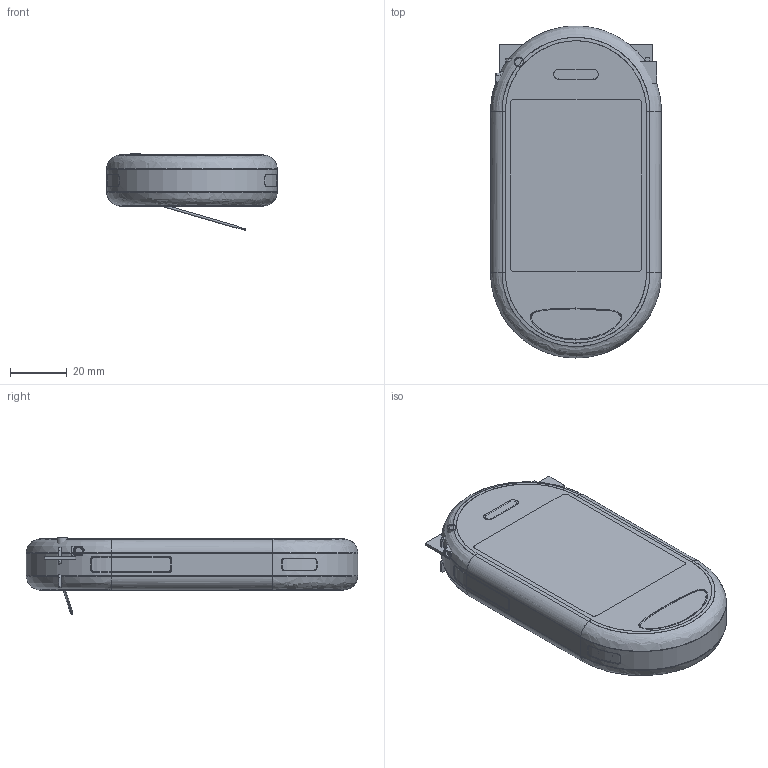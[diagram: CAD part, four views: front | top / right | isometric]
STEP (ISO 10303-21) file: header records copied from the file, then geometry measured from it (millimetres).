
FILE_DESCRIPTION((''),'2;1');
FILE_NAME('ID-GTC-GPS-PRELIMINARY_ASM','2008-06-30T',('GRA'),(''),'PRO/ENGINEER BY PARAMETRIC TECHNOLOGY CORPORATION, 2006170','PRO/ENGINEER BY PARAMETRIC TECHNOLOGY CORPORATION, 2006170','');
FILE_SCHEMA(('CONFIG_CONTROL_DESIGN'));
Length unit declared in the file: millimetre
Products named in the file (12): ID-GTC-FRONT-PRE_PRT; ID-GTC-REAR-PRE_PRT; ID-GTC-MIDDLE-PRE_PRT; ID-GTC-STACKING_PRT; ID-GTC-LENS-PRE_PRT; ID-GTC-SPEAKER-DECO_PRT; ID-GTC-SD-COV_PRT; ID-GTC-USB-COV_PRT; BLACK_PRT; ID-GTC-FRONT-RING_PRT; ID-GTC-REAR-RING_PRT; ID-GTC-GPS-PRELIMINARY_ASM
Assembly tree (11 placements, depth 2):
  ID-GTC-GPS-PRELIMINARY_ASM
    ID-GTC-FRONT-PRE_PRT
    ID-GTC-REAR-PRE_PRT
    ID-GTC-MIDDLE-PRE_PRT
    ID-GTC-STACKING_PRT
    ID-GTC-LENS-PRE_PRT
    ID-GTC-SPEAKER-DECO_PRT
    ID-GTC-SD-COV_PRT
    ID-GTC-USB-COV_PRT
    BLACK_PRT
    ID-GTC-FRONT-RING_PRT
    ID-GTC-REAR-RING_PRT
Bounding box: 60 x 116.7 x 26.81 mm (x, y, z)
Volume: 106631.7 mm3; surface area: 149756.2 mm2
Topology: 48 solids, 75 shells, 2221 faces, 5876 edges, 3803 vertices
Faces by surface type: plane 1276, cylinder 519, bspline 255, extrusion 93, torus 46, cone 24, sphere 8
Entity records: 102470 total; most frequent: CARTESIAN_POINT 48881, ORIENTED_EDGE 11554, DIRECTION 9919, EDGE_CURVE 5830, VECTOR 3845, VERTEX_POINT 3803, LINE 3752, AXIS2_PLACEMENT_3D 3037
